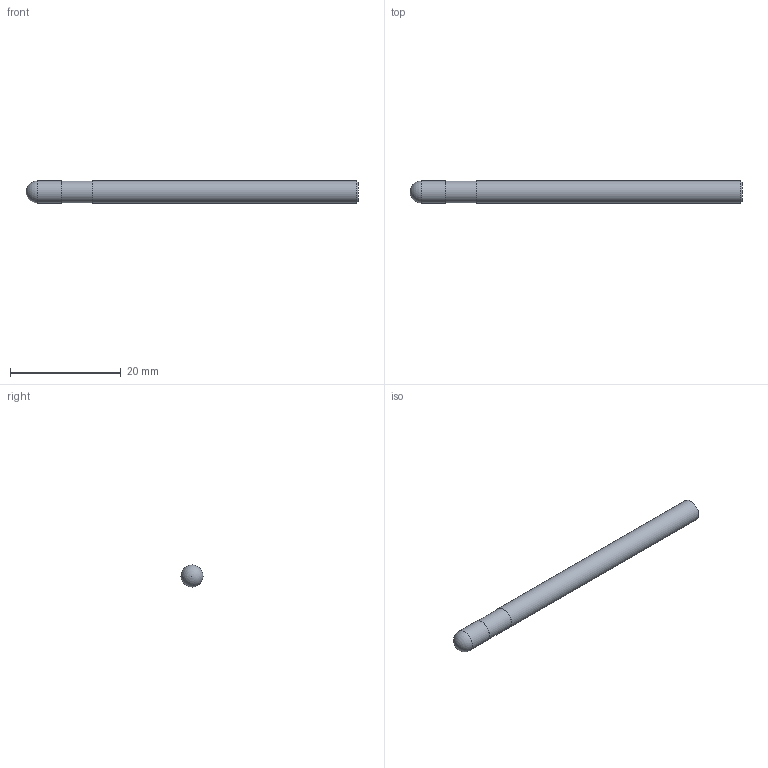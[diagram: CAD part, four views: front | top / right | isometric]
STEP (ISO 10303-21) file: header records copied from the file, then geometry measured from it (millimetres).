
FILE_DESCRIPTION(/* description */ (''),/* implementation_level */ '2;1');
FILE_NAME(/* name */ 'HSXBC4040 0460.stp',/* time_stamp */ '2026-01-27T10:28:21+08:00',/* author */ (''),/* organization */ (''),/* preprocessor_version */ 'ST-DEVELOPER v16',/* originating_system */ 'SIEMENS PLM Software NX 10.0',/* authorisation */ '');
FILE_SCHEMA (('CONFIG_CONTROL_DESIGN'));
Length unit declared in the file: millimetre
Products named in the file (1): HSXBC4040 0460_dxf
Bounding box: 60 x 4 x 4 mm (x, y, z)
Volume: 741.9 mm3; surface area: 764.5 mm2
Topology: 1 solids, 1 shells, 8 faces, 14 edges, 9 vertices
Faces by surface type: plane 3, cylinder 3, cone 1, sphere 1
Full cylindrical faces by diameter (mm): 3.9 x1, 4 x2
Entity records: 238 total; most frequent: DIRECTION 32, CARTESIAN_POINT 23, AXIS2_PLACEMENT_3D 16, EDGE_LOOP 14, ORIENTED_EDGE 14, FACE_BOUND 12, ADVANCED_FACE 8, PERSON_AND_ORGANIZATION 7
